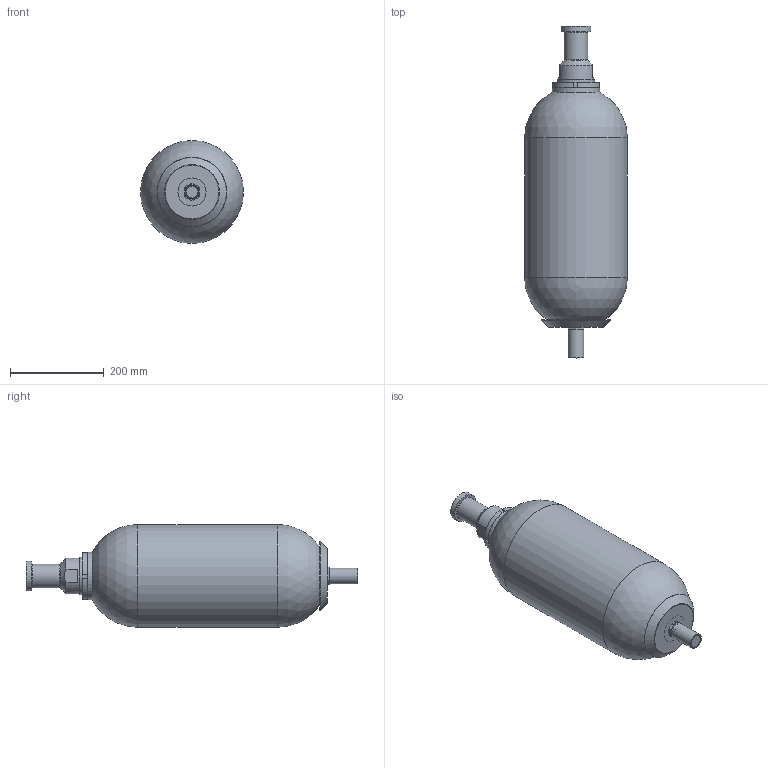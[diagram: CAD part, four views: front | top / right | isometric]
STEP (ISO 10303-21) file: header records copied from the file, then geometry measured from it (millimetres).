
FILE_DESCRIPTION((''),'2;1');
FILE_NAME('F:\STEP\ALLEGE\GAMME_EHVF_350&330&250bar\EHVF_12_330_90.stp','2011-03-04T10:23:55',('laurent.simeon'),(''),'Autodesk Inventor 2011','Autodesk Inventor 2011','');
FILE_SCHEMA(('AUTOMOTIVE_DESIGN { 1 0 10303 214 1 1 1 1 }'));
Length unit declared in the file: millimetre
Products named in the file (43): EHVF_12_330_90; PF108368-05200; VA108479-01626; VA108473-01626; VA108439-01600; VA108437-01600; PI108438-01600; RE100758-01200; JT104172-00023; JP102452-00026; ET106134-02600; BOUCHON DE VALVE; BO100759-02600; JP101164-00020; JOINT PLAT; EC102958-00200; BP102851-00200; BOUCHON DE PROTECTION; BOUCHON PLASTIQUE; CA108678-00190; BC110335-00220; BE105544-00200; EC100990-00200; CA100100-00220; B2100950-00200; ENROBAGE; BM110333-00200; CB110083-00200
Assembly tree (42 placements, depth 5):
  EHVF_12_330_90
    PF108368-05200
      PF108368-05200
    VA108479-01626
      VA108473-01626
        VA108439-01600
          VA108439-01600
        VA108437-01600
          VA108437-01600
        PI108438-01600
          PI108438-01600
        RE100758-01200
          RE100758-01200
        JT104172-00023
          JT104172-00023
        JP102452-00026
          JP102452-00026
        ET106134-02600
          ET106134-02600
      BOUCHON DE VALVE
        BO100759-02600
          BO100759-02600
        JP101164-00020
          JOINT PLAT
    EC102958-00200
      EC102958-00200
    BP102851-00200
      BOUCHON DE PROTECTION
      BOUCHON PLASTIQUE
    CA108678-00190
      CA108678-00190
    BC110335-00220
      BE105544-00200
        BE105544-00200
      EC100990-00200
        EC100990-00200
      CA100100-00220
        B2100950-00200
          B2100950-00200
        ENROBAGE
      BM110333-00200
        CB110083-00200
          CB110083-00200
Bounding box: 219.1 x 707.2 x 219.1 mm (x, y, z)
Volume: 3804267.1 mm3; surface area: 875218.2 mm2
Topology: 26 solids, 26 shells, 717 faces, 1715 edges, 1055 vertices
Faces by surface type: bspline 207, cylinder 197, plane 165, cone 86, torus 58, sphere 4
Full cylindrical faces by diameter (mm): 0.8 x1, 1.7 x1, 2 x1, 2.2 x1, 3.8 x1, 3.9 x1, 4.6 x1, 6.2 x1, 6.5 x1, 9 x3, 10 x1, 11.1 x1, 11.33 x1, 12 x1, 12.667 x1, 13 x8, 14.46 x1, 15.83 x1, 16 x2, 18 x1, 20 x1, 20.68 x1, 22 x1, 22.5 x1, 25 x1, 28.5 x2, 29.5 x1, 30.05 x1, 31 x1, 33.6 x1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
Entity records: 31306 total; most frequent: CARTESIAN_POINT 15617, ORIENTED_EDGE 3042, DIRECTION 2776, EDGE_CURVE 1521, AXIS2_PLACEMENT_3D 1210, VERTEX_POINT 995, EDGE_LOOP 932, FACE_OUTER_BOUND 716
